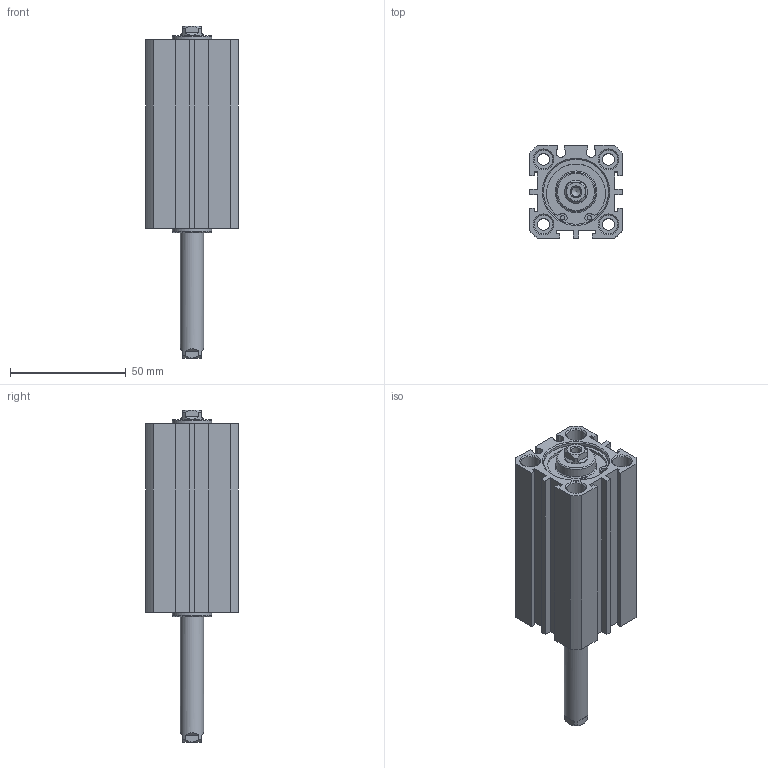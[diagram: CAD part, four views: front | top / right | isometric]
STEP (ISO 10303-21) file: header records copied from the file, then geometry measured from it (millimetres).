
FILE_DESCRIPTION((''),'2;1');
FILE_NAME('I:\3D電子目錄\氣缸\JDD\JDD-S\JDD25-S\JDD25x50-S.stp','2007-02-08T14:26:14',('662F206'),(''),'Autodesk Inventor 10','Autodesk Inventor 10','');
FILE_SCHEMA(('AUTOMOTIVE_DESIGN { 1 0 10303 214 1 1 1 1 }'));
Length unit declared in the file: millimetre
Products named in the file (3): JDD25-S; R 形環 28
Assembly tree (3 placements, depth 2):
  JDD25-S
    JDD25-S
    R 形環 28  x2
Bounding box: 40 x 40 x 143.2 mm (x, y, z)
Volume: 109561.7 mm3; surface area: 31560.2 mm2
Topology: 3 solids, 3 shells, 172 faces, 410 edges, 266 vertices
Faces by surface type: plane 92, cylinder 46, cone 22, bspline 10, torus 2
Full cylindrical faces by diameter (mm): 1.5 x2, 1.9 x4, 5.1 x4, 8 x8, 10 x2, 17 x2, 28 x4, 29.4 x2
Entity records: 4529 total; most frequent: CARTESIAN_POINT 950, DIRECTION 740, ORIENTED_EDGE 640, EDGE_CURVE 320, AXIS2_PLACEMENT_3D 280, EDGE_LOOP 244, VERTEX_POINT 236, VECTOR 180
